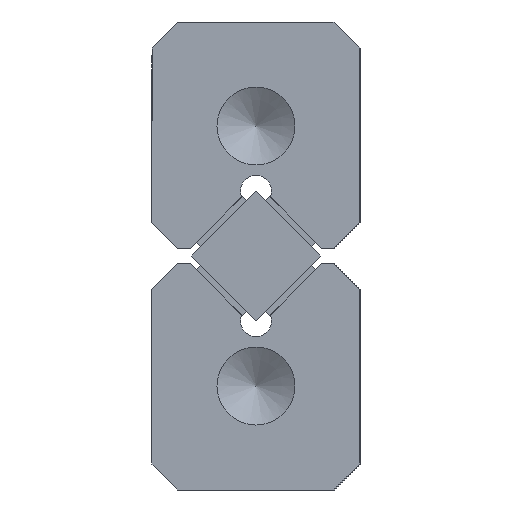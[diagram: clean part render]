
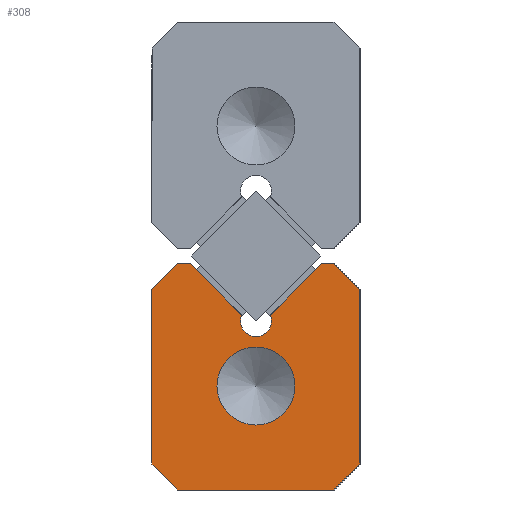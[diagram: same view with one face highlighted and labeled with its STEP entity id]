
A CAD part, left-side view. The second image highlights one B-rep face of the part: STEP entity #308.
In plain terms, the highlighted planar face has unit normal (-1, 0, 0).
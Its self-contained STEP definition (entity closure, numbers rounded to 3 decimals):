
#98=CARTESIAN_POINT('',(0.0,-3.,5.2));
#99=VERTEX_POINT('',#98);
#106=CARTESIAN_POINT('',(0.0,-4.0,4.2));
#107=VERTEX_POINT('',#106);
#108=CARTESIAN_POINT('',(0.0,-3.,5.2));
#109=DIRECTION('',(0.0,-0.707,-0.707));
#110=VECTOR('',#109,1.414);
#111=LINE('',#108,#110);
#112=EDGE_CURVE('',#99,#107,#111,.T.);
#129=CARTESIAN_POINT('',(0.0,-4.0,-2.5));
#130=VERTEX_POINT('',#129);
#131=CARTESIAN_POINT('',(0.0,-4.0,4.2));
#132=DIRECTION('',(0.0,0.0,-1.0));
#133=VECTOR('',#132,6.7);
#134=LINE('',#131,#133);
#135=EDGE_CURVE('',#107,#130,#134,.T.);
#209=CARTESIAN_POINT('',(0.0,0.,0.885));
#210=DIRECTION('',(1.0,0.0,0.0));
#211=DIRECTION('',(0.0,0.0,-1.0));
#212=AXIS2_PLACEMENT_3D('',#209,#210,#211);
#213=PLANE('',#212);
#214=ORIENTED_EDGE('',*,*,#112,.F.);
#215=CARTESIAN_POINT('',(0.0,-2.528,5.2));
#216=VERTEX_POINT('',#215);
#217=CARTESIAN_POINT('',(0.0,-2.528,5.2));
#218=DIRECTION('',(0.0,-1.0,0.0));
#219=VECTOR('',#218,0.472);
#220=LINE('',#217,#219);
#221=EDGE_CURVE('',#216,#99,#220,.T.);
#222=ORIENTED_EDGE('',*,*,#221,.F.);
#223=CARTESIAN_POINT('',(0.0,-0.555,3.227));
#224=VERTEX_POINT('',#223);
#225=CARTESIAN_POINT('',(0.0,-0.555,3.227));
#226=DIRECTION('',(0.0,-0.707,0.707));
#227=VECTOR('',#226,2.79);
#228=LINE('',#225,#227);
#229=EDGE_CURVE('',#224,#216,#228,.T.);
#230=ORIENTED_EDGE('',*,*,#229,.F.);
#231=CARTESIAN_POINT('',(0.0,0.555,3.227));
#232=VERTEX_POINT('',#231);
#233=CARTESIAN_POINT('',(0.0,0.0,3.));
#234=DIRECTION('',(-1.,0.0,0.0));
#235=DIRECTION('',(0.0,0.926,-0.378));
#236=AXIS2_PLACEMENT_3D('',#233,#234,#235);
#237=CIRCLE('',#236,0.6);
#238=EDGE_CURVE('',#232,#224,#237,.T.);
#239=ORIENTED_EDGE('',*,*,#238,.F.);
#240=CARTESIAN_POINT('',(0.0,2.528,5.2));
#241=VERTEX_POINT('',#240);
#242=CARTESIAN_POINT('',(0.0,2.528,5.2));
#243=DIRECTION('',(0.0,-0.707,-0.707));
#244=VECTOR('',#243,2.79);
#245=LINE('',#242,#244);
#246=EDGE_CURVE('',#241,#232,#245,.T.);
#247=ORIENTED_EDGE('',*,*,#246,.F.);
#248=CARTESIAN_POINT('',(0.0,3.,5.2));
#249=VERTEX_POINT('',#248);
#250=CARTESIAN_POINT('',(0.0,3.,5.2));
#251=DIRECTION('',(0.0,-1.0,0.0));
#252=VECTOR('',#251,0.472);
#253=LINE('',#250,#252);
#254=EDGE_CURVE('',#249,#241,#253,.T.);
#255=ORIENTED_EDGE('',*,*,#254,.F.);
#256=CARTESIAN_POINT('',(0.0,4.0,4.2));
#257=VERTEX_POINT('',#256);
#258=CARTESIAN_POINT('',(0.0,4.0,4.2));
#259=DIRECTION('',(0.0,-0.707,0.707));
#260=VECTOR('',#259,1.414);
#261=LINE('',#258,#260);
#262=EDGE_CURVE('',#257,#249,#261,.T.);
#263=ORIENTED_EDGE('',*,*,#262,.F.);
#264=CARTESIAN_POINT('',(0.0,4.0,-2.5));
#265=VERTEX_POINT('',#264);
#266=CARTESIAN_POINT('',(0.0,4.0,-2.5));
#267=DIRECTION('',(0.0,0.0,1.0));
#268=VECTOR('',#267,6.7);
#269=LINE('',#266,#268);
#270=EDGE_CURVE('',#265,#257,#269,.T.);
#271=ORIENTED_EDGE('',*,*,#270,.F.);
#272=CARTESIAN_POINT('',(0.0,3.,-3.5));
#273=VERTEX_POINT('',#272);
#274=CARTESIAN_POINT('',(0.0,3.,-3.5));
#275=DIRECTION('',(0.0,0.707,0.707));
#276=VECTOR('',#275,1.414);
#277=LINE('',#274,#276);
#278=EDGE_CURVE('',#273,#265,#277,.T.);
#279=ORIENTED_EDGE('',*,*,#278,.F.);
#280=CARTESIAN_POINT('',(0.0,-3.,-3.5));
#281=VERTEX_POINT('',#280);
#282=CARTESIAN_POINT('',(0.0,-3.,-3.5));
#283=DIRECTION('',(0.0,1.0,0.0));
#284=VECTOR('',#283,6.);
#285=LINE('',#282,#284);
#286=EDGE_CURVE('',#281,#273,#285,.T.);
#287=ORIENTED_EDGE('',*,*,#286,.F.);
#288=CARTESIAN_POINT('',(0.0,-4.0,-2.5));
#289=DIRECTION('',(0.0,0.707,-0.707));
#290=VECTOR('',#289,1.414);
#291=LINE('',#288,#290);
#292=EDGE_CURVE('',#130,#281,#291,.T.);
#293=ORIENTED_EDGE('',*,*,#292,.F.);
#294=ORIENTED_EDGE('',*,*,#135,.F.);
#295=EDGE_LOOP('',(#214,#222,#230,#239,#247,#255,#263,#271,#279,#287,#293,#294));
#296=FACE_OUTER_BOUND('',#295,.T.);
#297=CARTESIAN_POINT('',(0.0,1.5,0.5));
#298=VERTEX_POINT('',#297);
#299=CARTESIAN_POINT('',(0.0,0.0,0.5));
#300=DIRECTION('',(1.0,0.0,0.0));
#301=DIRECTION('',(0.0,1.0,0.0));
#302=AXIS2_PLACEMENT_3D('',#299,#300,#301);
#303=CIRCLE('',#302,1.5);
#304=EDGE_CURVE('',#298,#298,#303,.T.);
#305=ORIENTED_EDGE('',*,*,#304,.T.);
#306=EDGE_LOOP('',(#305));
#307=FACE_BOUND('',#306,.T.);
#308=ADVANCED_FACE('',(#296,#307),#213,.F.);
